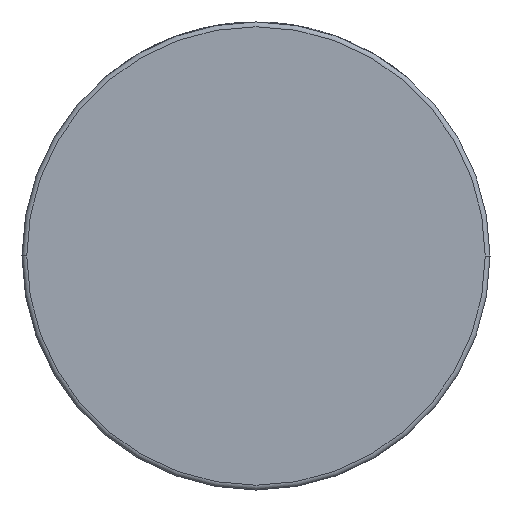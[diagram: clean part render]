
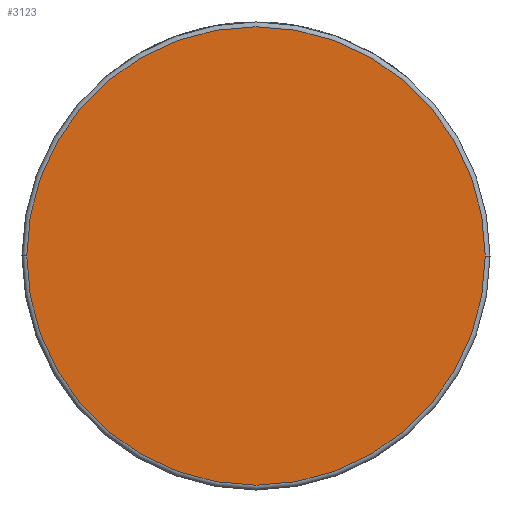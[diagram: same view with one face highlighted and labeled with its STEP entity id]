
A CAD part, front view. The second image highlights one B-rep face of the part: STEP entity #3123.
In plain terms, the highlighted planar face has unit normal (0, -1, 0).
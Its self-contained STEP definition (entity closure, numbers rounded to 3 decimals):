
#434 = CIRCLE ( 'NONE', #1824, 48. ) ;
#583 = FACE_OUTER_BOUND ( 'NONE', #3003, .T. ) ;
#1011 = VERTEX_POINT ( 'NONE', #3826 ) ;
#1012 = AXIS2_PLACEMENT_3D ( 'NONE', #3029, #4140, #4416 ) ;
#1051 = EDGE_CURVE ( 'NONE', #4335, #1011, #434, .T. ) ;
#1215 = AXIS2_PLACEMENT_3D ( 'NONE', #2244, #4115, #1740 ) ;
#1318 = DIRECTION ( 'NONE',  ( 1., 0., 0. ) ) ;
#1391 = EDGE_CURVE ( 'NONE', #1011, #4335, #2964, .T. ) ;
#1740 = DIRECTION ( 'NONE',  ( 1., 0., 0. ) ) ;
#1824 = AXIS2_PLACEMENT_3D ( 'NONE', #4422, #2108, #1318 ) ;
#2108 = DIRECTION ( 'NONE',  ( 0., -1., 0. ) ) ;
#2244 = CARTESIAN_POINT ( 'NONE',  ( 49., -30.5, 0. ) ) ;
#2349 = ORIENTED_EDGE ( 'NONE', *, *, #1391, .T. ) ;
#2849 = CARTESIAN_POINT ( 'NONE',  ( 48., -30.5, 0. ) ) ;
#2964 = CIRCLE ( 'NONE', #1012, 48. ) ;
#3003 = EDGE_LOOP ( 'NONE', ( #3022, #2349 ) ) ;
#3022 = ORIENTED_EDGE ( 'NONE', *, *, #1051, .T. ) ;
#3029 = CARTESIAN_POINT ( 'NONE',  ( 0., -30.5, 0. ) ) ;
#3123 = ADVANCED_FACE ( 'NONE', ( #583 ), #3349, .T. ) ;
#3349 = PLANE ( 'NONE',  #1215 ) ;
#3826 = CARTESIAN_POINT ( 'NONE',  ( -48., -30.5, 0. ) ) ;
#4115 = DIRECTION ( 'NONE',  ( 0., -1., 0. ) ) ;
#4140 = DIRECTION ( 'NONE',  ( 0., -1., 0. ) ) ;
#4335 = VERTEX_POINT ( 'NONE', #2849 ) ;
#4416 = DIRECTION ( 'NONE',  ( 1., 0., 0. ) ) ;
#4422 = CARTESIAN_POINT ( 'NONE',  ( 0., -30.5, 0. ) ) ;
